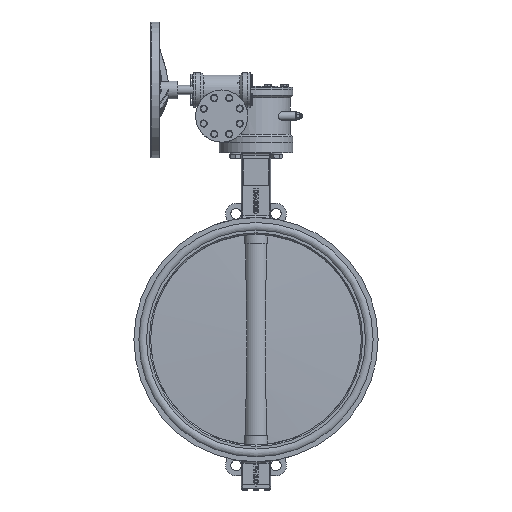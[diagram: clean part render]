
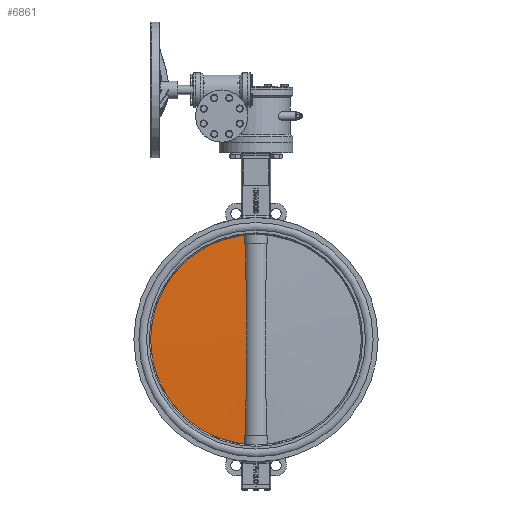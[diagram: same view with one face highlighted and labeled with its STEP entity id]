
A CAD part, left-side view. The second image highlights one B-rep face of the part: STEP entity #6861.
In plain terms, the highlighted spherical face has radius 6003.75 mm.
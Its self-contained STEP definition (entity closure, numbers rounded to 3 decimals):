
#6861=ADVANCED_FACE('',(#13653),#13655,.T.);
#13653=FACE_BOUND('',#13654,.T.);
#13654=EDGE_LOOP('',(#22825,#22826,#22827,#22828,#22829,#22830));
#13655=SPHERICAL_SURFACE('',#13656,6003.75);
#13656=AXIS2_PLACEMENT_3D('',#13657,#13658,#13659);
#13657=CARTESIAN_POINT('',(0.,-5980.75,0.));
#13658=DIRECTION('',(0.,-1.,0.));
#13659=DIRECTION('',(0.,0.,1.));
#22825=ORIENTED_EDGE('',*,*,#25452,.F.);
#22826=ORIENTED_EDGE('',*,*,#25464,.F.);
#22827=ORIENTED_EDGE('',*,*,#25465,.T.);
#22828=ORIENTED_EDGE('',*,*,#25466,.F.);
#22829=ORIENTED_EDGE('',*,*,#25435,.F.);
#22830=ORIENTED_EDGE('',*,*,#25463,.T.);
#25435=EDGE_CURVE('',#27955,#27956,#27957,.F.);
#25452=EDGE_CURVE('',#27988,#27973,#27990,.T.);
#25463=EDGE_CURVE('',#27955,#27973,#28005,.T.);
#25464=EDGE_CURVE('',#28006,#27988,#28007,.T.);
#25465=EDGE_CURVE('',#28006,#28008,#28009,.T.);
#25466=EDGE_CURVE('',#27956,#28008,#28010,.T.);
#27955=VERTEX_POINT('',#35400);
#27956=VERTEX_POINT('',#35401);
#27957=B_SPLINE_CURVE_WITH_KNOTS('',3,
(#35402,#35403,#35404,#35405,#35406,#35407,#35408,#35409,#35410,#35411,#35412,#35413,
#35414,#35415,#35416,#35417,#35418,#35419,#35420),
.UNSPECIFIED.,.F.,.F.,
(4,1,1,1,1,1,1,1,1,1,1,1,1,1,1,1,4),
(0.,0.047,0.094,0.141,0.188,0.234,
0.28,0.325,0.37,0.414,0.459,
0.505,0.552,0.6,0.683,0.816,
1.),
.UNSPECIFIED.);
#27973=VERTEX_POINT('',#35617);
#27988=VERTEX_POINT('',#35810);
#27990=B_SPLINE_CURVE_WITH_KNOTS('',3,
(#35815,#35816,#35817,#35818,#35819,#35820,#35821,#35822,#35823,#35824,#35825,#35826,
#35827,#35828,#35829,#35830,#35831,#35832,#35833),
.UNSPECIFIED.,.F.,.F.,
(4,1,1,1,1,1,1,1,1,1,1,1,1,1,1,1,4),
(0.,0.047,0.094,0.141,0.188,0.234,
0.28,0.325,0.37,0.414,0.459,
0.505,0.552,0.6,0.683,0.816,
1.),
.UNSPECIFIED.);
#28005=CIRCLE('',#35904,300.);
#28006=VERTEX_POINT('',#35908);
#28007=CIRCLE('',#35909,5997.538);
#28008=VERTEX_POINT('',#35913);
#28009=B_SPLINE_CURVE_WITH_KNOTS('',3,
(#35914,#35915,#35916,#35917,#35918,#35919,#35920,#35921,#35922,#35923,#35924,#35925,
#35926,#35927,#35928,#35929,#35930),
.UNSPECIFIED.,.F.,.F.,
(4,1,1,1,1,1,1,1,1,1,1,1,1,1,4),
(0.,0.072,0.142,0.209,0.293,0.372,
0.448,0.5,0.519,0.612,0.709,
0.792,0.859,0.929,1.),
.UNSPECIFIED.);
#28010=CIRCLE('',#35931,5997.538);
#35400=CARTESIAN_POINT('',(33.128,15.5,298.165));
#35401=CARTESIAN_POINT('',(32.54,16.699,273.05));
#35402=CARTESIAN_POINT('',(32.54,16.699,273.05));
#35403=CARTESIAN_POINT('',(32.549,16.681,273.446));
#35404=CARTESIAN_POINT('',(32.568,16.645,274.236));
#35405=CARTESIAN_POINT('',(32.596,16.591,275.419));
#35406=CARTESIAN_POINT('',(32.623,16.536,276.597));
#35407=CARTESIAN_POINT('',(32.651,16.482,277.768));
#35408=CARTESIAN_POINT('',(32.678,16.428,278.927));
#35409=CARTESIAN_POINT('',(32.705,16.375,280.076));
#35410=CARTESIAN_POINT('',(32.731,16.321,281.21));
#35411=CARTESIAN_POINT('',(32.758,16.268,282.334));
#35412=CARTESIAN_POINT('',(32.784,16.215,283.455));
#35413=CARTESIAN_POINT('',(32.811,16.162,284.584));
#35414=CARTESIAN_POINT('',(32.838,16.107,285.737));
#35415=CARTESIAN_POINT('',(32.865,16.05,286.916));
#35416=CARTESIAN_POINT('',(32.9,15.978,288.411));
#35417=CARTESIAN_POINT('',(32.952,15.871,290.627));
#35418=CARTESIAN_POINT('',(33.03,15.708,293.976));
#35419=CARTESIAN_POINT('',(33.092,15.577,296.629));
#35420=CARTESIAN_POINT('',(33.128,15.5,298.165));
#35617=CARTESIAN_POINT('',(33.128,15.5,-298.165));
#35810=CARTESIAN_POINT('',(32.54,16.699,-273.05));
#35815=CARTESIAN_POINT('',(32.54,16.699,-273.05));
#35816=CARTESIAN_POINT('',(32.549,16.681,-273.446));
#35817=CARTESIAN_POINT('',(32.568,16.645,-274.236));
#35818=CARTESIAN_POINT('',(32.596,16.591,-275.419));
#35819=CARTESIAN_POINT('',(32.623,16.536,-276.597));
#35820=CARTESIAN_POINT('',(32.651,16.482,-277.768));
#35821=CARTESIAN_POINT('',(32.678,16.428,-278.927));
#35822=CARTESIAN_POINT('',(32.705,16.375,-280.076));
#35823=CARTESIAN_POINT('',(32.731,16.321,-281.21));
#35824=CARTESIAN_POINT('',(32.758,16.268,-282.334));
#35825=CARTESIAN_POINT('',(32.784,16.215,-283.455));
#35826=CARTESIAN_POINT('',(32.811,16.162,-284.584));
#35827=CARTESIAN_POINT('',(32.838,16.107,-285.737));
#35828=CARTESIAN_POINT('',(32.865,16.05,-286.916));
#35829=CARTESIAN_POINT('',(32.9,15.978,-288.411));
#35830=CARTESIAN_POINT('',(32.952,15.871,-290.627));
#35831=CARTESIAN_POINT('',(33.03,15.708,-293.976));
#35832=CARTESIAN_POINT('',(33.092,15.577,-296.629));
#35833=CARTESIAN_POINT('',(33.128,15.5,-298.165));
#35904=AXIS2_PLACEMENT_3D('',#35905,#35906,#35907);
#35905=CARTESIAN_POINT('',(0.,15.5,0.));
#35906=DIRECTION('',(0.,1.,0.));
#35907=DIRECTION('',(0.11,0.,0.994));
#35908=CARTESIAN_POINT('',(30.754,16.709,-273.05));
#35909=AXIS2_PLACEMENT_3D('',#35910,#35911,#35912);
#35910=CARTESIAN_POINT('',(0.,-5980.75,-273.05));
#35911=DIRECTION('',(0.,0.,-1.));
#35912=DIRECTION('',(0.005,1.,0.));
#35913=CARTESIAN_POINT('',(30.754,16.709,273.05));
#35914=CARTESIAN_POINT('',(30.754,16.709,-273.05));
#35915=CARTESIAN_POINT('',(30.43,17.306,-259.976));
#35916=CARTESIAN_POINT('',(29.792,18.398,-234.198));
#35917=CARTESIAN_POINT('',(28.896,19.767,-196.079));
#35918=CARTESIAN_POINT('',(28.042,20.96,-155.828));
#35919=CARTESIAN_POINT('',(27.298,21.914,-113.82));
#35920=CARTESIAN_POINT('',(26.747,22.577,-70.428));
#35921=CARTESIAN_POINT('',(26.481,22.886,-32.736));
#35922=CARTESIAN_POINT('',(26.425,22.95,-6.048));
#35923=CARTESIAN_POINT('',(26.448,22.924,23.854));
#35924=CARTESIAN_POINT('',(26.646,22.696,61.903));
#35925=CARTESIAN_POINT('',(27.256,21.968,111.624));
#35926=CARTESIAN_POINT('',(28.058,20.937,156.663));
#35927=CARTESIAN_POINT('',(28.91,19.747,196.662));
#35928=CARTESIAN_POINT('',(29.8,18.386,234.5));
#35929=CARTESIAN_POINT('',(30.432,17.301,260.081));
#35930=CARTESIAN_POINT('',(30.754,16.709,273.05));
#35931=AXIS2_PLACEMENT_3D('',#35932,#35933,#35934);
#35932=CARTESIAN_POINT('',(0.,-5980.75,273.05));
#35933=DIRECTION('',(0.,0.,1.));
#35934=DIRECTION('',(0.005,1.,0.));
